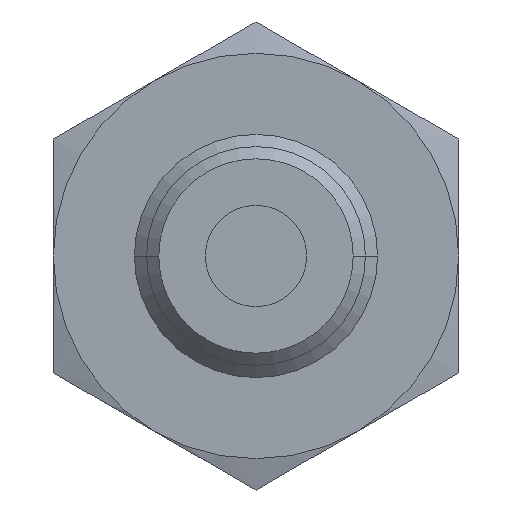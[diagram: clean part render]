
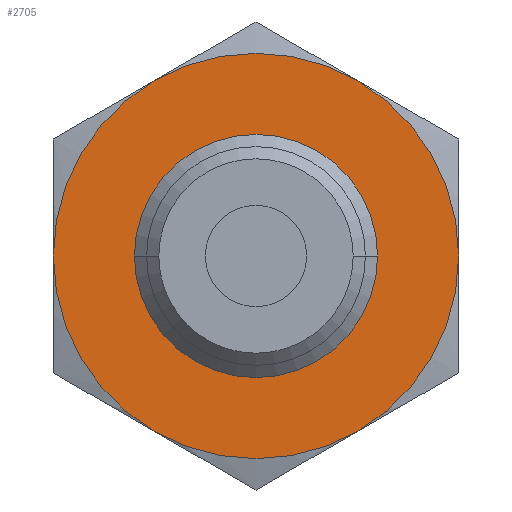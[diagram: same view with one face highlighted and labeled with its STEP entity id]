
A CAD part, front view. The second image highlights one B-rep face of the part: STEP entity #2705.
In plain terms, the highlighted planar face has unit normal (0, -1, 0) as drawn and (0, 0, 1) by its records, which use the part's own axes.
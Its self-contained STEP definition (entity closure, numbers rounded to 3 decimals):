
#2189=CARTESIAN_POINT('',(0.,0.,3.2));
#2190=DIRECTION('',(0.,0.,1.));
#2191=DIRECTION('',(-0.5,-0.866,0.));
#2192=AXIS2_PLACEMENT_3D('',#2189,#2190,#2191);
#2197=CARTESIAN_POINT('',(0.,0.,3.2));
#2198=DIRECTION('',(0.,0.,-1.));
#2199=DIRECTION('',(-0.5,-0.866,0.));
#2200=AXIS2_PLACEMENT_3D('',#2197,#2198,#2199);
#2205=CARTESIAN_POINT('',(0.,0.,3.2));
#2206=DIRECTION('',(0.,0.,-1.));
#2207=DIRECTION('',(-1.,0.,0.));
#2208=AXIS2_PLACEMENT_3D('',#2205,#2206,#2207);
#2213=CARTESIAN_POINT('',(0.,0.,3.2));
#2214=DIRECTION('',(0.,0.,-1.));
#2215=DIRECTION('',(0.5,0.866,0.));
#2216=AXIS2_PLACEMENT_3D('',#2213,#2214,#2215);
#2221=CARTESIAN_POINT('',(0.,0.,3.2));
#2222=DIRECTION('',(0.,0.,-1.));
#2223=DIRECTION('',(1.,0.,0.));
#2224=AXIS2_PLACEMENT_3D('',#2221,#2222,#2223);
#2229=CARTESIAN_POINT('',(0.,0.,3.2));
#2230=DIRECTION('',(0.,0.,-1.));
#2231=DIRECTION('',(0.,-1.,0.));
#2232=AXIS2_PLACEMENT_3D('',#2229,#2230,#2231);
#2237=CARTESIAN_POINT('',(0.,0.,3.2));
#2238=DIRECTION('',(0.,0.,-1.));
#2239=DIRECTION('',(0.,1.,0.));
#2240=AXIS2_PLACEMENT_3D('',#2237,#2238,#2239);
#2245=CARTESIAN_POINT('',(0.,0.,3.2));
#2246=DIRECTION('',(0.,0.,1.));
#2247=DIRECTION('',(0.5,0.866,0.));
#2248=AXIS2_PLACEMENT_3D('',#2245,#2246,#2247);
#2371=CARTESIAN_POINT('',(-2.5,-4.33,3.2));
#2372=CARTESIAN_POINT('',(-5.,0.,3.2));
#2373=VERTEX_POINT('',#2371);
#2374=VERTEX_POINT('',#2372);
#2375=CARTESIAN_POINT('',(-2.5,4.33,3.2));
#2376=VERTEX_POINT('',#2375);
#2377=CARTESIAN_POINT('',(2.5,4.33,3.2));
#2378=CARTESIAN_POINT('',(5.,0.,3.2));
#2379=VERTEX_POINT('',#2377);
#2380=VERTEX_POINT('',#2378);
#2381=CARTESIAN_POINT('',(2.5,-4.33,3.2));
#2382=VERTEX_POINT('',#2381);
#2399=CARTESIAN_POINT('',(0.,-3.,3.2));
#2400=CARTESIAN_POINT('',(0.,3.,3.2));
#2401=VERTEX_POINT('',#2399);
#2402=VERTEX_POINT('',#2400);
#2685=CARTESIAN_POINT('',(0.,0.,3.2));
#2686=DIRECTION('',(0.,0.,1.));
#2687=DIRECTION('',(1.,0.,0.));
#2688=AXIS2_PLACEMENT_3D('',#2685,#2686,#2687);
#2689=PLANE('',#2688);
#2690=ORIENTED_EDGE('',*,*,#2680,.F.);
#2691=ORIENTED_EDGE('',*,*,#2642,.T.);
#2692=ORIENTED_EDGE('',*,*,#2630,.T.);
#2694=ORIENTED_EDGE('',*,*,#2693,.F.);
#2695=ORIENTED_EDGE('',*,*,#2654,.T.);
#2696=ORIENTED_EDGE('',*,*,#2666,.T.);
#2697=EDGE_LOOP('',(#2690,#2691,#2692,#2694,#2695,#2696));
#2698=FACE_OUTER_BOUND('',#2697,.F.);
#2700=ORIENTED_EDGE('',*,*,#2699,.F.);
#2702=ORIENTED_EDGE('',*,*,#2701,.F.);
#2703=EDGE_LOOP('',(#2700,#2702));
#2704=FACE_BOUND('',#2703,.F.);
#2193=CIRCLE('',#2192,5.);
#2201=CIRCLE('',#2200,5.);
#2209=CIRCLE('',#2208,5.);
#2217=CIRCLE('',#2216,5.);
#2225=CIRCLE('',#2224,5.);
#2233=CIRCLE('',#2232,3.);
#2241=CIRCLE('',#2240,3.);
#2249=CIRCLE('',#2248,5.);
#2630=EDGE_CURVE('',#2374,#2376,#2209,.T.);
#2642=EDGE_CURVE('',#2373,#2374,#2201,.T.);
#2654=EDGE_CURVE('',#2379,#2380,#2217,.T.);
#2666=EDGE_CURVE('',#2380,#2382,#2225,.T.);
#2680=EDGE_CURVE('',#2373,#2382,#2193,.T.);
#2693=EDGE_CURVE('',#2379,#2376,#2249,.T.);
#2699=EDGE_CURVE('',#2401,#2402,#2233,.T.);
#2701=EDGE_CURVE('',#2402,#2401,#2241,.T.);
#2705=ADVANCED_FACE('',(#2698,#2704),#2689,.T.);
